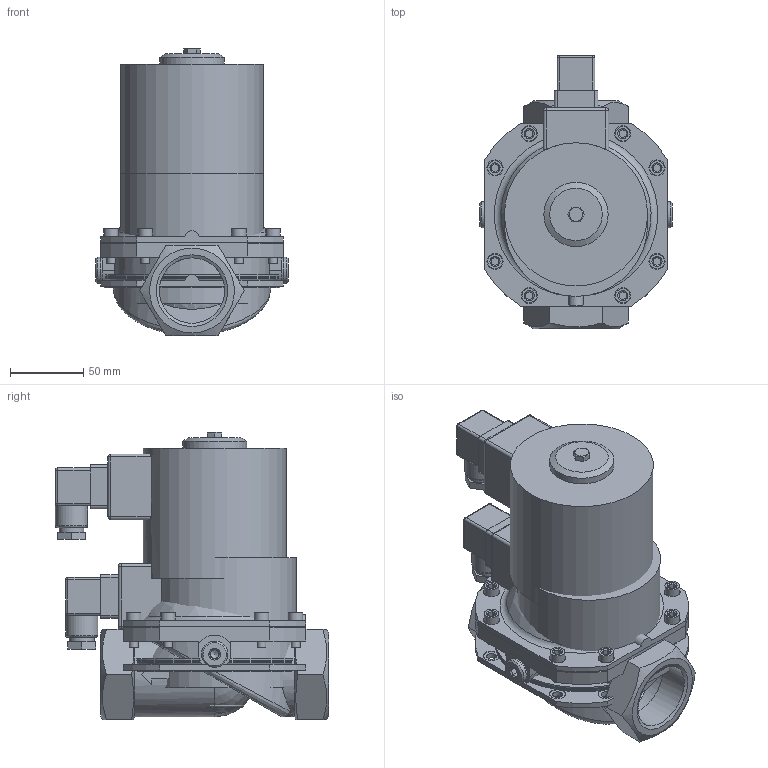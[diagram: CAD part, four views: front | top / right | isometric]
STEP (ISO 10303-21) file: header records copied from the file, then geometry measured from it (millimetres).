
FILE_DESCRIPTION( ( 'Unknown' ), '1' );
FILE_NAME( 'D:/Wyroby/Widoki gabarytowe/Zawory ZEF/ZEF_40/ZEF_40.stp', 'Unknown', ( 'Unknown' ), ( 'Unknown' ), 'XStep 1.0', 'Unknown', ' ' );
FILE_SCHEMA( ( 'CONFIG_CONTROL_DESIGN' ) );
Length unit declared in the file: millimetre
Products named in the file (45): Wa_053_01_05; Wa_053_01_04; Wa_044_01_05; Assem1; Wb_125_01_01; Wa_156_01_00; Wa_044_01_05bez_ko³ka; Ko³ek6x45; Wa_031_01_05_001got; Wa_031_01_04_002got; Wa_031_01_04_001; Wb_125_01_01_002; Wb_125_01_01_001; Wa_125_01_03_004; Wa_044_01_04_002; Wa_086_01_00_002; Wa_065_01_02_004; Oring12x2彡i從i黎y1,6; Wa_044_01_04_003; Wa_014_01_00_003彡i從i黎y27,5; Wa_044_01_02_004; Wa_031_01_00_007; Wa_031_01_00_008; Wa_125_01_03_002zaci從i黎a; Wa_156_01_01; Wa_156_01_02; Wa_031_01_00_012; Wa_031_01_00_010; Œ-027ImbusM6x18; Wa_031_01_00_005; Œ-006m6x12szeœc.; Wa_031_01_00_003; Wa_125_01_00_002; Wb_125_01_00_001zciœnieta22,25; Cewka_40-65
Bounding box: 132 x 187 x 197 mm (x, y, z)
Volume: 3197866.4 mm3; surface area: 967059.7 mm2
Topology: 139 solids, 139 shells, 2249 faces, 4902 edges, 3148 vertices
Faces by surface type: plane 1054, cylinder 679, cone 358, torus 97, bspline 36, sphere 25
Full cylindrical faces by diameter (mm): 2 x10, 2.5 x30, 3 x3, 3.5 x6, 4 x7, 4.2 x9, 4.917 x29, 5 x4, 6 x37, 6.2 x13, 6.5 x3, 6.6 x24, 8 x9, 10 x39, 10.917 x4, 11 x24, 11.445 x6, 12 x17, 12.2 x8, 13 x6, 13.8 x6, 14 x4, 16 x4, 17 x2, 18 x12, 18.5 x4, 18.7 x4, 22 x2, 24 x4, 24.5 x5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
Entity records: 22393 total; most frequent: CARTESIAN_POINT 6895, DIRECTION 2896, ORIENTED_EDGE 2222, AXIS2_PLACEMENT_3D 1262, EDGE_LOOP 1122, EDGE_CURVE 1111, VERTEX_POINT 866, FACE_OUTER_BOUND 853
